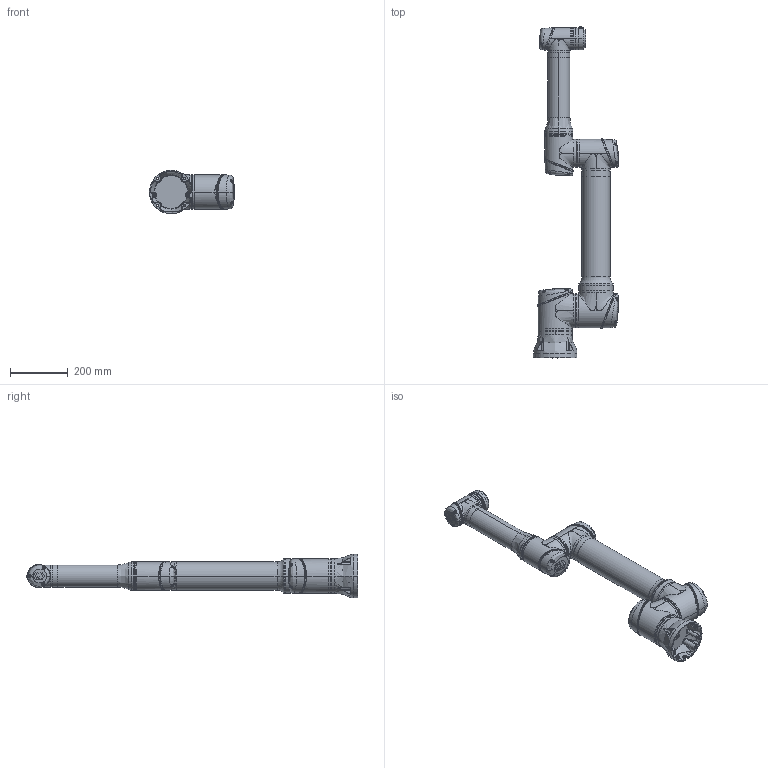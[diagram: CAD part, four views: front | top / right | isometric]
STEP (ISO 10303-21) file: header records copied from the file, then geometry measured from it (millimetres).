
FILE_DESCRIPTION (( 'STEP AP203' ), '1' );
FILE_NAME ('CS_掛极CS58RZ_V1.1.STEP', '2023-10-30T07:50:12', ( '' ), ( '' ), 'SwSTEP 2.0', 'SolidWorks 2017', '' );
FILE_SCHEMA (( 'CONFIG_CONTROL_DESIGN' ));
Length unit declared in the file: millimetre
Products named in the file (7): CS58RZ_Link3; CS58RZ_Link1; CS58RZ_Link2; CS58RZ_Flange; CS_掛极CS58RZ_V1.1; CS58RZ_Link4; CS58RZ_Base
Assembly tree (6 placements, depth 2):
  CS_掛极CS58RZ_V1.1
    CS58RZ_Base
    CS58RZ_Link1
    CS58RZ_Link2
    CS58RZ_Link3
    CS58RZ_Link4
    CS58RZ_Flange
Bounding box: 293.79 x 1144.76 x 149.7 mm (x, y, z)
Volume: 11543966.2 mm3; surface area: 818059.8 mm2
Topology: 23 solids, 135 shells, 5635 faces, 13804 edges, 8272 vertices
Faces by surface type: bspline 3022, plane 1077, cylinder 823, cone 627, sphere 48, torus 38
Entity records: 640126 total; most frequent: CARTESIAN_POINT 534606, ORIENTED_EDGE 26868, DIRECTION 14124, EDGE_CURVE 13434, VERTEX_POINT 8255, B_SPLINE_CURVE_WITH_KNOTS 7365, EDGE_LOOP 5911, AXIS2_PLACEMENT_3D 5775
